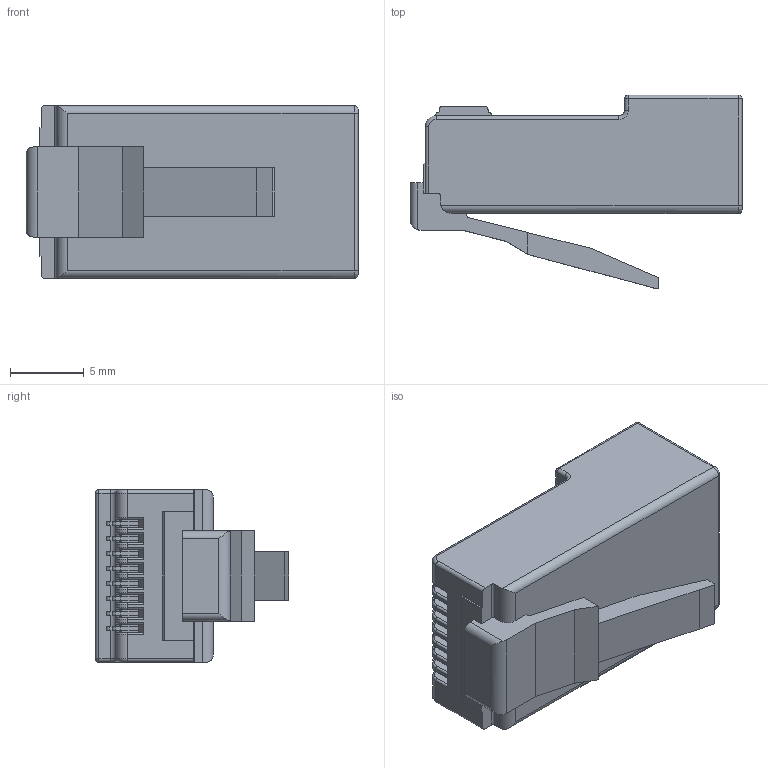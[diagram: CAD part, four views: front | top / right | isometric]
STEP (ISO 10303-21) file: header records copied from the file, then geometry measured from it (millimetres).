
FILE_DESCRIPTION((''),'2;1');
FILE_NAME('449150001','2014-06-30T',('me'),(''),'PRO/ENGINEER BY PARAMETRIC TECHNOLOGY CORPORATION, 2011490','PRO/ENGINEER BY PARAMETRIC TECHNOLOGY CORPORATION, 2011490','');
FILE_SCHEMA(('CONFIG_CONTROL_DESIGN'));
Length unit declared in the file: inch
Products named in the file (1): 449150001
Bounding box: 22.48 x 13.11 x 11.68 mm (x, y, z)
Volume: 1208.8 mm3; surface area: 2205.3 mm2
Topology: 1 solids, 1 shells, 417 faces, 1162 edges, 746 vertices
Faces by surface type: plane 225, cylinder 110, bspline 58, torus 20, sphere 4
Entity records: 17190 total; most frequent: CARTESIAN_POINT 6584, ORIENTED_EDGE 2324, DIRECTION 2063, EDGE_CURVE 1162, VECTOR 763, LINE 763, VERTEX_POINT 746, AXIS2_PLACEMENT_3D 650
